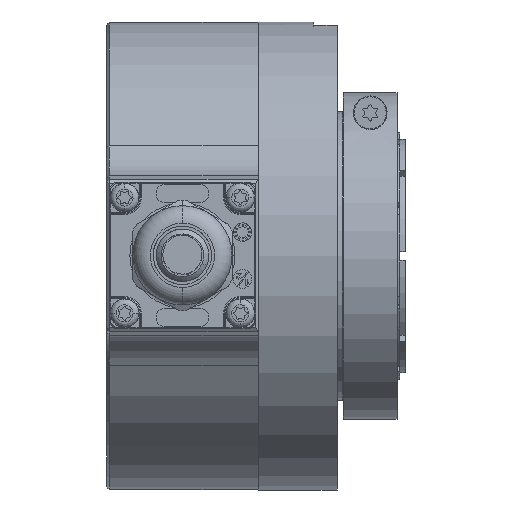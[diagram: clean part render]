
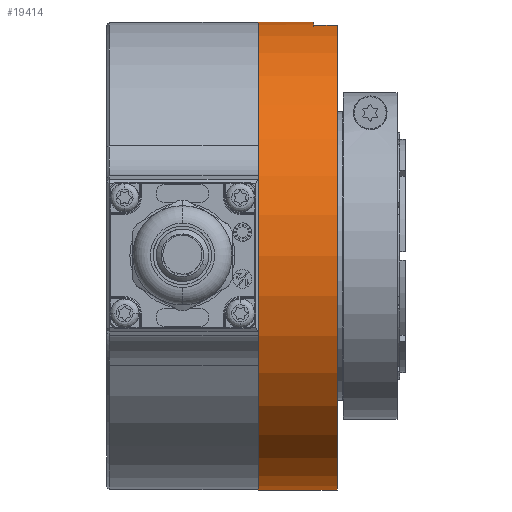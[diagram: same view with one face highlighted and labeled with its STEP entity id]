
A CAD part, top view. The second image highlights one B-rep face of the part: STEP entity #19414.
In plain terms, the highlighted cylindrical face has radius 40.075 mm (diameter 80.15 mm), a partial arc.
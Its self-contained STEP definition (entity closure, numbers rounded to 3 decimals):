
#120 = AXIS2_PLACEMENT_3D ( 'NONE', #6703, #17724, #15938 ) ;
#329 = EDGE_CURVE ( 'NONE', #16470, #15694, #7347, .T. ) ;
#522 = DIRECTION ( 'NONE',  ( -1., 0., 0. ) ) ;
#754 = VECTOR ( 'NONE', #17888, 1000. ) ;
#2238 = VERTEX_POINT ( 'NONE', #18848 ) ;
#3305 = CARTESIAN_POINT ( 'NONE',  ( 0., 40.075, 0. ) ) ;
#3538 = CARTESIAN_POINT ( 'NONE',  ( -12.775, -40.075, 0. ) ) ;
#5464 = ORIENTED_EDGE ( 'NONE', *, *, #13474, .T. ) ;
#6468 = EDGE_CURVE ( 'NONE', #12462, #19918, #18813, .T. ) ;
#6703 = CARTESIAN_POINT ( 'NONE',  ( -12.775, 0., 0. ) ) ;
#6819 = ORIENTED_EDGE ( 'NONE', *, *, #329, .F. ) ;
#7347 = CIRCLE ( 'NONE', #9260, 40.075 ) ;
#7956 = DIRECTION ( 'NONE',  ( 0., 1., 0. ) ) ;
#8107 = DIRECTION ( 'NONE',  ( 0., 1., 0. ) ) ;
#8224 = DIRECTION ( 'NONE',  ( -1., 0., 0. ) ) ;
#8282 = ORIENTED_EDGE ( 'NONE', *, *, #16299, .T. ) ;
#8910 = VERTEX_POINT ( 'NONE', #12090 ) ;
#9260 = AXIS2_PLACEMENT_3D ( 'NONE', #9483, #22320, #13216 ) ;
#9477 = CARTESIAN_POINT ( 'NONE',  ( 0., -40.075, 0. ) ) ;
#9483 = CARTESIAN_POINT ( 'NONE',  ( 0., 0., 0. ) ) ;
#9645 = CARTESIAN_POINT ( 'NONE',  ( 9.5, 0., 0. ) ) ;
#10014 = AXIS2_PLACEMENT_3D ( 'NONE', #22248, #522, #8107 ) ;
#10383 = CIRCLE ( 'NONE', #20341, 40.075 ) ;
#10574 = CARTESIAN_POINT ( 'NONE',  ( -12.775, 39.468, 6.95 ) ) ;
#11929 = CARTESIAN_POINT ( 'NONE',  ( -12.775, 40.075, 0. ) ) ;
#12090 = CARTESIAN_POINT ( 'NONE',  ( 9.5, 40.075, 0. ) ) ;
#12462 = VERTEX_POINT ( 'NONE', #19827 ) ;
#13216 = DIRECTION ( 'NONE',  ( 0., 1., 0. ) ) ;
#13474 = EDGE_CURVE ( 'NONE', #8910, #15694, #13744, .T. ) ;
#13618 = EDGE_CURVE ( 'NONE', #12462, #16470, #18028, .T. ) ;
#13724 = DIRECTION ( 'NONE',  ( -1., 0., 0. ) ) ;
#13744 = LINE ( 'NONE', #11929, #21408 ) ;
#15519 = LINE ( 'NONE', #10574, #754 ) ;
#15694 = VERTEX_POINT ( 'NONE', #3305 ) ;
#15938 = DIRECTION ( 'NONE',  ( 0., 1., 0. ) ) ;
#16299 = EDGE_CURVE ( 'NONE', #19918, #2238, #15519, .T. ) ;
#16470 = VERTEX_POINT ( 'NONE', #9477 ) ;
#17492 = FACE_OUTER_BOUND ( 'NONE', #23129, .T. ) ;
#17724 = DIRECTION ( 'NONE',  ( -1., 0., 0. ) ) ;
#17888 = DIRECTION ( 'NONE',  ( -1., 0., 0. ) ) ;
#18028 = LINE ( 'NONE', #3538, #21026 ) ;
#18494 = CARTESIAN_POINT ( 'NONE',  ( 13.5, 39.468, 6.95 ) ) ;
#18813 = CIRCLE ( 'NONE', #10014, 40.075 ) ;
#18848 = CARTESIAN_POINT ( 'NONE',  ( 9.5, 39.468, 6.95 ) ) ;
#19291 = CYLINDRICAL_SURFACE ( 'NONE', #120, 40.075 ) ;
#19414 = ADVANCED_FACE ( 'NONE', ( #17492 ), #19291, .T. ) ;
#19827 = CARTESIAN_POINT ( 'NONE',  ( 13.5, -40.075, 0. ) ) ;
#19918 = VERTEX_POINT ( 'NONE', #18494 ) ;
#20184 = DIRECTION ( 'NONE',  ( -1., 0., 0. ) ) ;
#20341 = AXIS2_PLACEMENT_3D ( 'NONE', #9645, #13724, #7956 ) ;
#21026 = VECTOR ( 'NONE', #20184, 1000. ) ;
#21305 = EDGE_CURVE ( 'NONE', #2238, #8910, #10383, .T. ) ;
#21408 = VECTOR ( 'NONE', #8224, 1000. ) ;
#21697 = ORIENTED_EDGE ( 'NONE', *, *, #6468, .T. ) ;
#22248 = CARTESIAN_POINT ( 'NONE',  ( 13.5, 0., 0. ) ) ;
#22320 = DIRECTION ( 'NONE',  ( -1., 0., 0. ) ) ;
#23022 = ORIENTED_EDGE ( 'NONE', *, *, #21305, .T. ) ;
#23129 = EDGE_LOOP ( 'NONE', ( #23645, #21697, #8282, #23022, #5464, #6819 ) ) ;
#23645 = ORIENTED_EDGE ( 'NONE', *, *, #13618, .F. ) ;
